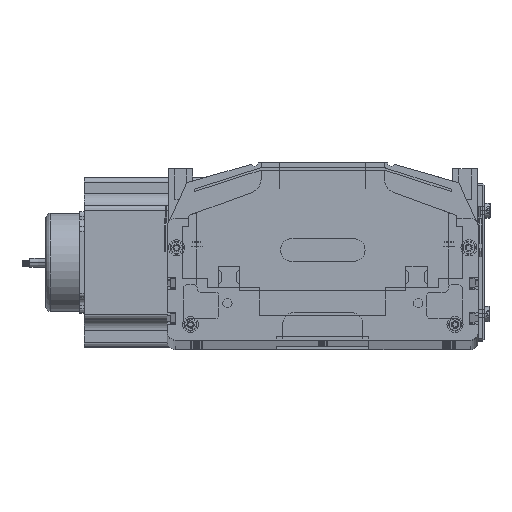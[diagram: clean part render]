
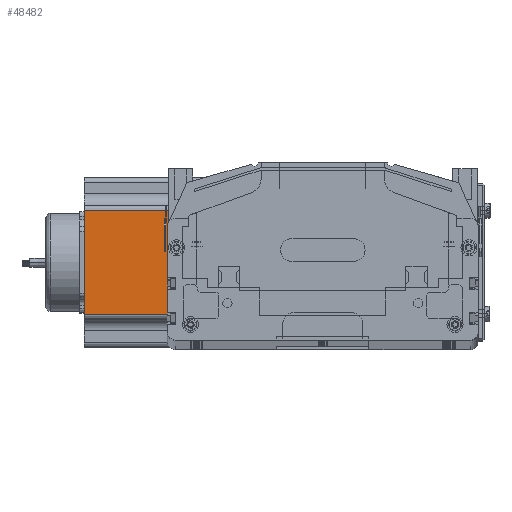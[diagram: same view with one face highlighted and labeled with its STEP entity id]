
A CAD part, top view. The second image highlights one B-rep face of the part: STEP entity #48482.
In plain terms, the highlighted planar face has unit normal (0, 0, 1) as drawn and (0, -1, 0) by its records, which use the part's own axes.
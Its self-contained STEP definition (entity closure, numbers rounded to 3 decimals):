
#47949 = EDGE_CURVE ( 'NONE', #48171, #48553, #89269, .T. ) ;
#47986 = ORIENTED_EDGE ( 'NONE', *, *, #48169, .T. ) ;
#48136 = EDGE_LOOP ( 'NONE', ( #47986, #48480, #48375, #48522 ) ) ;
#48138 = VERTEX_POINT ( 'NONE', #90709 ) ;
#48169 = EDGE_CURVE ( 'NONE', #48138, #48171, #90830, .T. ) ;
#48171 = VERTEX_POINT ( 'NONE', #90835 ) ;
#48178 = VERTEX_POINT ( 'NONE', #90812 ) ;
#48375 = ORIENTED_EDGE ( 'NONE', *, *, #48481, .F. ) ;
#48442 = EDGE_CURVE ( 'NONE', #48178, #48138, #93050, .T. ) ;
#48480 = ORIENTED_EDGE ( 'NONE', *, *, #47949, .T. ) ;
#48481 = EDGE_CURVE ( 'NONE', #48178, #48553, #93155, .T. ) ;
#48482 = ADVANCED_FACE ( 'NONE', ( #93178 ), #93190, .F. ) ;
#48522 = ORIENTED_EDGE ( 'NONE', *, *, #48442, .T. ) ;
#48553 = VERTEX_POINT ( 'NONE', #92912 ) ;
#89253 = DIRECTION ( 'NONE',  ( 0., 0., 1. ) ) ;
#89254 = VECTOR ( 'NONE', #89253, 1000. ) ;
#89265 = CARTESIAN_POINT ( 'NONE',  ( 88.952, 0., 160.5 ) ) ;
#89269 = LINE ( 'NONE', #89265, #89254 ) ;
#90600 = DIRECTION ( 'NONE',  ( 1., 0., 0. ) ) ;
#90602 = VECTOR ( 'NONE', #90600, 1000. ) ;
#90709 = CARTESIAN_POINT ( 'NONE',  ( 21.048, 0., 0. ) ) ;
#90812 = CARTESIAN_POINT ( 'NONE',  ( 21.048, 0., 160.5 ) ) ;
#90828 = CARTESIAN_POINT ( 'NONE',  ( 0., 0., 0. ) ) ;
#90830 = LINE ( 'NONE', #90828, #90602 ) ;
#90835 = CARTESIAN_POINT ( 'NONE',  ( 88.952, 0., 0. ) ) ;
#92912 = CARTESIAN_POINT ( 'NONE',  ( 88.952, 0., 160.5 ) ) ;
#93044 = DIRECTION ( 'NONE',  ( 0., 0., -1. ) ) ;
#93046 = VECTOR ( 'NONE', #93044, 1000. ) ;
#93049 = CARTESIAN_POINT ( 'NONE',  ( 21.048, 0., 160.5 ) ) ;
#93050 = LINE ( 'NONE', #93049, #93046 ) ;
#93152 = VECTOR ( 'NONE', #93337, 1000. ) ;
#93154 = CARTESIAN_POINT ( 'NONE',  ( 0., 0., 160.5 ) ) ;
#93155 = LINE ( 'NONE', #93154, #93152 ) ;
#93157 = DIRECTION ( 'NONE',  ( 0., 1., 0. ) ) ;
#93178 = FACE_OUTER_BOUND ( 'NONE', #48136, .T. ) ;
#93190 = PLANE ( 'NONE',  #93336 ) ;
#93208 = CARTESIAN_POINT ( 'NONE',  ( 0., 0., 160.5 ) ) ;
#93326 = DIRECTION ( 'NONE',  ( 0., 0., 1. ) ) ;
#93336 = AXIS2_PLACEMENT_3D ( 'NONE', #93208, #93157, #93326 ) ;
#93337 = DIRECTION ( 'NONE',  ( 1., 0., 0. ) ) ;
